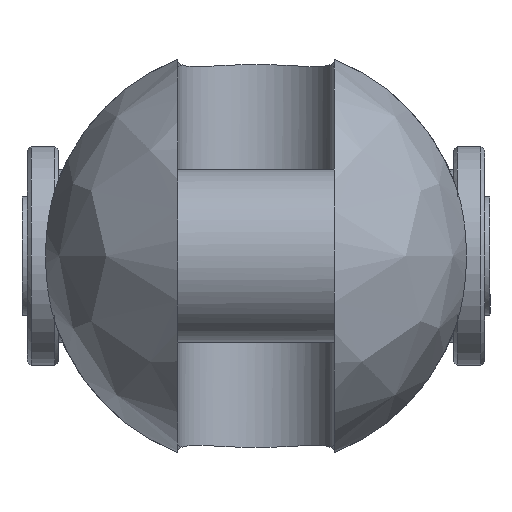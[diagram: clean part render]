
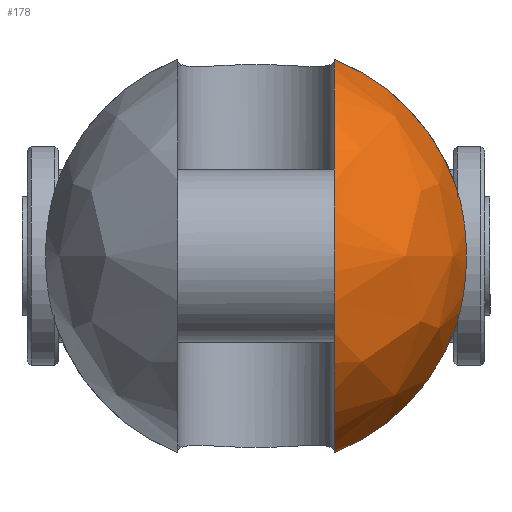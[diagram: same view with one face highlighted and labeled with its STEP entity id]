
A CAD part, left-side view. The second image highlights one B-rep face of the part: STEP entity #178.
In plain terms, the highlighted free-form (B-spline) face has degree [2, 2] with [9, 5] control points.
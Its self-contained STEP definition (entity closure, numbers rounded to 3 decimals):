
#178=ADVANCED_FACE('',(#318),#2404,.T.);
#318=FACE_OUTER_BOUND('',#478,.T.);
#478=EDGE_LOOP('',(#1187,#1188,#1189,#1190));
#1187=ORIENTED_EDGE('',*,*,#1570,.T.);
#1188=ORIENTED_EDGE('',*,*,#1592,.F.);
#1189=ORIENTED_EDGE('',*,*,#1602,.T.);
#1190=ORIENTED_EDGE('',*,*,#1586,.F.);
#1570=EDGE_CURVE('',#2237,#2236,#1972,.T.);
#1586=EDGE_CURVE('',#2237,#2249,#1982,.T.);
#1592=EDGE_CURVE('',#2256,#2236,#1983,.T.);
#1602=EDGE_CURVE('',#2256,#2249,#1775,.T.);
#1775=B_SPLINE_CURVE_WITH_KNOTS('',3,(#6002,#6003,#6004,#6005,#6006,#6007,
#6008,#6009,#6010,#6011,#6012,#6013,#6014,#6015),.UNSPECIFIED.,.F.,.F.,
(4,2,2,2,2,2,4),(0.,2.274,6.04,9.806,
13.572,17.338,19.612),.UNSPECIFIED.);
#1972=(
BOUNDED_CURVE()
B_SPLINE_CURVE(2,(#5850,#5851,#5852,#5853,#5854),.UNSPECIFIED.,.F.,.F.)
B_SPLINE_CURVE_WITH_KNOTS((3,2,3),(-78.791,-39.395,
0.),.UNSPECIFIED.)
CURVE()
GEOMETRIC_REPRESENTATION_ITEM()
RATIONAL_B_SPLINE_CURVE((1.,0.707,1.,0.707,1.))
REPRESENTATION_ITEM('')
);
#1982=(
BOUNDED_CURVE()
B_SPLINE_CURVE(2,(#5928,#5929,#5930),.UNSPECIFIED.,.F.,.F.)
B_SPLINE_CURVE_WITH_KNOTS((3,3),(0.,22.992),.UNSPECIFIED.)
CURVE()
GEOMETRIC_REPRESENTATION_ITEM()
RATIONAL_B_SPLINE_CURVE((1.,0.911,1.))
REPRESENTATION_ITEM('')
);
#1983=(
BOUNDED_CURVE()
B_SPLINE_CURVE(2,(#5957,#5958,#5959),.UNSPECIFIED.,.F.,.F.)
B_SPLINE_CURVE_WITH_KNOTS((3,3),(0.,22.992),.UNSPECIFIED.)
CURVE()
GEOMETRIC_REPRESENTATION_ITEM()
RATIONAL_B_SPLINE_CURVE((1.,0.911,1.))
REPRESENTATION_ITEM('')
);
#2236=VERTEX_POINT('',#5718);
#2237=VERTEX_POINT('',#5719);
#2249=VERTEX_POINT('',#5731);
#2256=VERTEX_POINT('',#5738);
#2404=(
BOUNDED_SURFACE()
B_SPLINE_SURFACE(2,2,((#5432,#5433,#5434,#5435,#5436),(#5437,#5438,#5439,
#5440,#5441),(#5442,#5443,#5444,#5445,#5446),(#5447,#5448,#5449,#5450,#5451),
(#5452,#5453,#5454,#5455,#5456),(#5457,#5458,#5459,#5460,#5461),(#5462,
#5463,#5464,#5465,#5466),(#5467,#5468,#5469,#5470,#5471),(#5472,#5473,#5474,
#5475,#5476)),.UNSPECIFIED.,.T.,.F.,.F.)
B_SPLINE_SURFACE_WITH_KNOTS((3,2,2,2,3),(3,2,3),(0.,42.412,84.823,
127.235,169.646),(0.,42.412,84.823),
 .UNSPECIFIED.)
GEOMETRIC_REPRESENTATION_ITEM()
RATIONAL_B_SPLINE_SURFACE(((1.,0.707,1.,0.707,1.),
(0.707,0.5,0.707,0.5,0.707),(1.,0.707,
1.,0.707,1.),(0.707,0.5,0.707,0.5,0.707),
(1.,0.707,1.,0.707,1.),(0.707,0.5,0.707,
0.5,0.707),(1.,0.707,1.,0.707,1.),(0.707,
0.5,0.707,0.5,0.707),(1.,0.707,1.,0.707,
1.)))
REPRESENTATION_ITEM('')
SURFACE()
);
#5432=CARTESIAN_POINT('',(-39.,0.,0.));
#5433=CARTESIAN_POINT('',(-39.,27.,0.));
#5434=CARTESIAN_POINT('',(-12.,27.,0.));
#5435=CARTESIAN_POINT('',(15.,27.,0.));
#5436=CARTESIAN_POINT('',(15.,0.,0.));
#5437=CARTESIAN_POINT('',(-39.,0.,0.));
#5438=CARTESIAN_POINT('',(-39.,27.,27.));
#5439=CARTESIAN_POINT('',(-12.,27.,27.));
#5440=CARTESIAN_POINT('',(15.,27.,27.));
#5441=CARTESIAN_POINT('',(15.,0.,0.));
#5442=CARTESIAN_POINT('',(-39.,0.,0.));
#5443=CARTESIAN_POINT('',(-39.,0.,27.));
#5444=CARTESIAN_POINT('',(-12.,0.,27.));
#5445=CARTESIAN_POINT('',(15.,0.,27.));
#5446=CARTESIAN_POINT('',(15.,0.,0.));
#5447=CARTESIAN_POINT('',(-39.,0.,0.));
#5448=CARTESIAN_POINT('',(-39.,-27.,27.));
#5449=CARTESIAN_POINT('',(-12.,-27.,27.));
#5450=CARTESIAN_POINT('',(15.,-27.,27.));
#5451=CARTESIAN_POINT('',(15.,0.,0.));
#5452=CARTESIAN_POINT('',(-39.,0.,0.));
#5453=CARTESIAN_POINT('',(-39.,-27.,0.));
#5454=CARTESIAN_POINT('',(-12.,-27.,0.));
#5455=CARTESIAN_POINT('',(15.,-27.,0.));
#5456=CARTESIAN_POINT('',(15.,0.,0.));
#5457=CARTESIAN_POINT('',(-39.,0.,0.));
#5458=CARTESIAN_POINT('',(-39.,-27.,-27.));
#5459=CARTESIAN_POINT('',(-12.,-27.,-27.));
#5460=CARTESIAN_POINT('',(15.,-27.,-27.));
#5461=CARTESIAN_POINT('',(15.,0.,0.));
#5462=CARTESIAN_POINT('',(-39.,0.,0.));
#5463=CARTESIAN_POINT('',(-39.,0.,-27.));
#5464=CARTESIAN_POINT('',(-12.,0.,-27.));
#5465=CARTESIAN_POINT('',(15.,0.,-27.));
#5466=CARTESIAN_POINT('',(15.,0.,0.));
#5467=CARTESIAN_POINT('',(-39.,0.,0.));
#5468=CARTESIAN_POINT('',(-39.,27.,-27.));
#5469=CARTESIAN_POINT('',(-12.,27.,-27.));
#5470=CARTESIAN_POINT('',(15.,27.,-27.));
#5471=CARTESIAN_POINT('',(15.,0.,0.));
#5472=CARTESIAN_POINT('',(-39.,0.,0.));
#5473=CARTESIAN_POINT('',(-39.,27.,0.));
#5474=CARTESIAN_POINT('',(-12.,27.,0.));
#5475=CARTESIAN_POINT('',(15.,27.,0.));
#5476=CARTESIAN_POINT('',(15.,0.,0.));
#5718=CARTESIAN_POINT('',(-12.,-10.,-25.08));
#5719=CARTESIAN_POINT('',(-12.,-10.,25.08));
#5731=CARTESIAN_POINT('',(-12.,-25.456,9.));
#5738=CARTESIAN_POINT('',(-12.,-25.456,-9.));
#5850=CARTESIAN_POINT('',(-12.,-10.,25.08));
#5851=CARTESIAN_POINT('',(-37.08,-10.,25.08));
#5852=CARTESIAN_POINT('',(-37.08,-10.,0.));
#5853=CARTESIAN_POINT('',(-37.08,-10.,-25.08));
#5854=CARTESIAN_POINT('',(-12.,-10.,-25.08));
#5928=CARTESIAN_POINT('',(-12.,-10.,25.08));
#5929=CARTESIAN_POINT('',(-12.,-21.374,20.545));
#5930=CARTESIAN_POINT('',(-12.,-25.456,9.));
#5957=CARTESIAN_POINT('',(-12.,-25.456,-9.));
#5958=CARTESIAN_POINT('',(-12.,-21.374,-20.545));
#5959=CARTESIAN_POINT('',(-12.,-10.,-25.08));
#6002=CARTESIAN_POINT('',(-12.,-25.456,-9.));
#6003=CARTESIAN_POINT('',(-12.443,-25.665,-8.409));
#6004=CARTESIAN_POINT('',(-12.837,-25.848,-7.792));
#6005=CARTESIAN_POINT('',(-13.729,-26.26,-6.153));
#6006=CARTESIAN_POINT('',(-14.213,-26.479,-4.963));
#6007=CARTESIAN_POINT('',(-14.848,-26.765,-2.482));
#6008=CARTESIAN_POINT('',(-15.,-26.833,-1.191));
#6009=CARTESIAN_POINT('',(-15.,-26.833,1.191));
#6010=CARTESIAN_POINT('',(-14.848,-26.765,2.482));
#6011=CARTESIAN_POINT('',(-14.213,-26.479,4.963));
#6012=CARTESIAN_POINT('',(-13.729,-26.26,6.153));
#6013=CARTESIAN_POINT('',(-12.837,-25.848,7.792));
#6014=CARTESIAN_POINT('',(-12.443,-25.665,8.409));
#6015=CARTESIAN_POINT('',(-12.,-25.456,9.));
